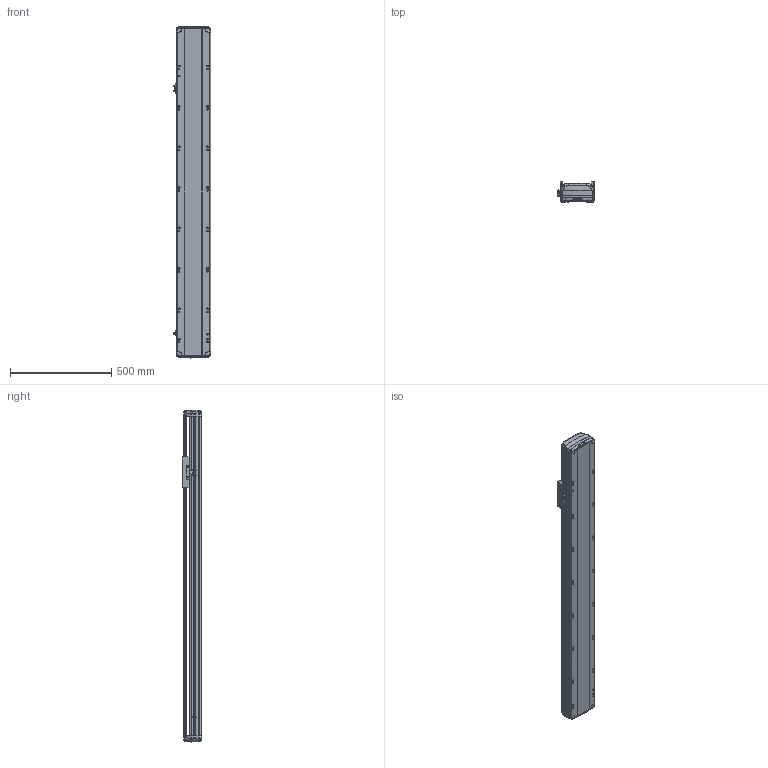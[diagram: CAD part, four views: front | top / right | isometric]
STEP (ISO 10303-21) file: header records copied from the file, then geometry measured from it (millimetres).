
FILE_DESCRIPTION (( 'STEP AP214' ), '1' );
FILE_NAME ('RTH17-XX-1200-B-M40B-C4.STEP', '2025-10-24T09:20:41', ( '' ), ( '' ), 'SwSTEP 2.0', 'SolidWorks 2018', '' );
FILE_SCHEMA (( 'AUTOMOTIVE_DESIGN' ));
Length unit declared in the file: millimetre
Products named in the file (7): N_OMRON EE-SX672 換覜ん^RTH17-XX-XX-B-M40B-C4ㄗ源最宒ㄘ; N_RTH17-M-007B上盖^RTH17-XX-XX-B-M40B-C4（方程式）; N_RTH17-E-004丝杆螺母连接座^RTH17-XX-XX-B-M40B-C4（方程式）; N_RTH17-M-011B底座^RTH17-XX-XX-B-M40B-C4（方程式）; RTH17-XX-1200-B-M40B-C4; N_RTH17-GY-001P^RTH17-XX-XX-B-M40B-C4（方程式）; N_RTH-L-012 感应片(外置)^RTH17-XX-XX-B-M40B-C4（方程式）
Assembly tree (9 placements, depth 2):
  RTH17-XX-1200-B-M40B-C4
    N_RTH17-M-011B底座^RTH17-XX-XX-B-M40B-C4（方程式）
    N_RTH17-M-007B上盖^RTH17-XX-XX-B-M40B-C4（方程式）
    N_OMRON EE-SX672 換覜ん^RTH17-XX-XX-B-M40B-C4ㄗ源最宒ㄘ  x3
    N_RTH-L-012 感应片(外置)^RTH17-XX-XX-B-M40B-C4（方程式）
    N_RTH17-E-004丝杆螺母连接座^RTH17-XX-XX-B-M40B-C4（方程式）
    N_RTH17-GY-001P^RTH17-XX-XX-B-M40B-C4（方程式）  x2
Bounding box: 183.5 x 97 x 1639.88 mm (x, y, z)
Volume: 11856850.6 mm3; surface area: 1600757.3 mm2
Topology: 7 solids, 11 shells, 1768 faces, 4988 edges, 3242 vertices
Faces by surface type: plane 815, cylinder 487, bspline 420, cone 28, torus 18
Entity records: 42582 total; most frequent: CARTESIAN_POINT 17551, ORIENTED_EDGE 5480, DIRECTION 4336, EDGE_CURVE 2744, VERTEX_POINT 1796, VECTOR 1472, LINE 1472, AXIS2_PLACEMENT_3D 1432
